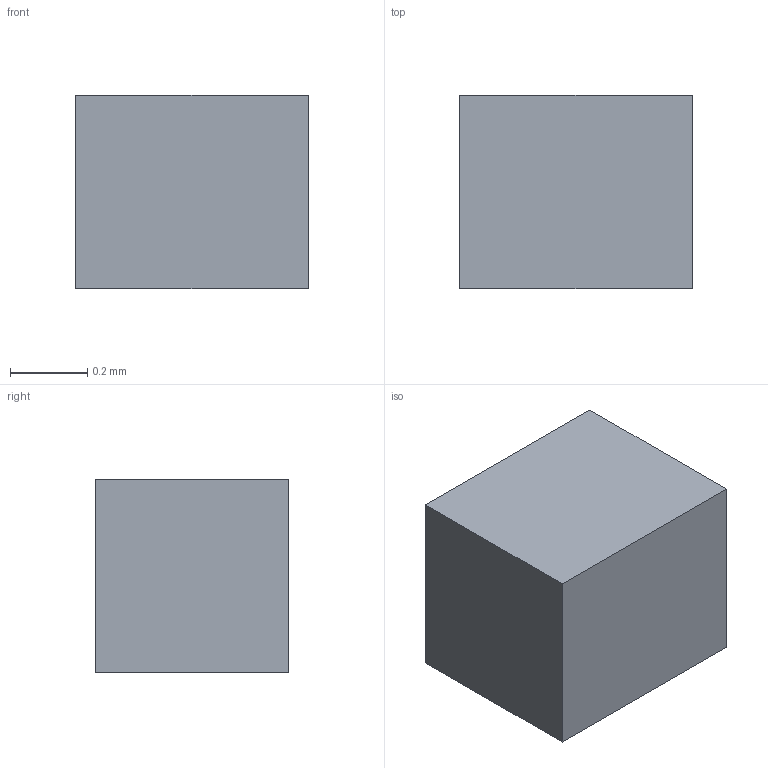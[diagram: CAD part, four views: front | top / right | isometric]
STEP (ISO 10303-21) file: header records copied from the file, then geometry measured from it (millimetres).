
FILE_DESCRIPTION(/* description */ ('STEP AP242 Edition 2','CAx-IF Rec.Pracs.---Representation and Presentation of Product Manufacturing Information (PMI)---4.0---2014-10-13','CAx-IF Rec.Pracs.---3D Tessellated Geometry---0.4---2014-09-14','2;1','CAx-IF Rec.Pracs.---User Defined Attributes---1.5---2016-08-15'),/* implementation_level */ '2;1');
FILE_NAME(/* name */ 'HIRO_Assembly - SMD Capacitor, Configurable, Raspberry Pi Pico-R3_C18 (2)',/* time_stamp */ '2026-11-04T05:23:28Z',/* author */ (''),/* organization */ (''),/* preprocessor_version */ 'ST-DEVELOPER v20',/* originating_system */ 'ONSHAPE BY PTC INC, 1.223',/* authorisation */ ' ');
FILE_SCHEMA (('AP242_MANAGED_MODEL_BASED_3D_ENGINEERING_MIM_LF { 1 0 10303 442 3 1 4 }'));
Length unit declared in the file: metre
Products named in the file (1): SMD Capacitor, Configurable, Raspberry Pi Pico-R3_C18
Bounding box: 0.6 x 0.5 x 0.5 mm (x, y, z)
Volume: 0.1 mm3; surface area: 1.7 mm2
Topology: 1 solids, 1 shells, 6 faces, 12 edges, 8 vertices
Faces by surface type: plane 6
Entity records: 221 total; most frequent: CARTESIAN_POINT 27, DIRECTION 26, ORIENTED_EDGE 24, EDGE_CURVE 12, LINE 12, VECTOR 12, VERTEX_POINT 8, PRESENTATION_STYLE_ASSIGNMENT 7
